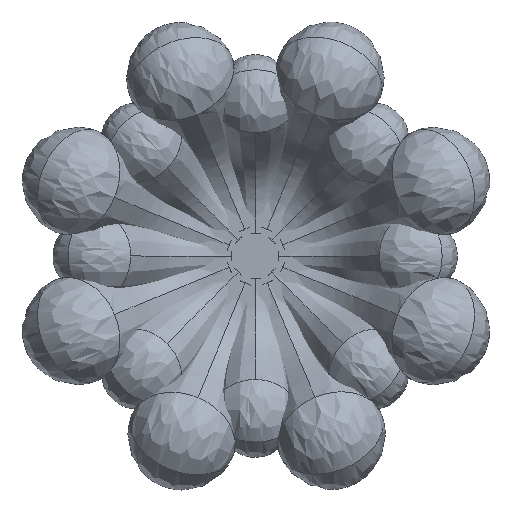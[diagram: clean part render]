
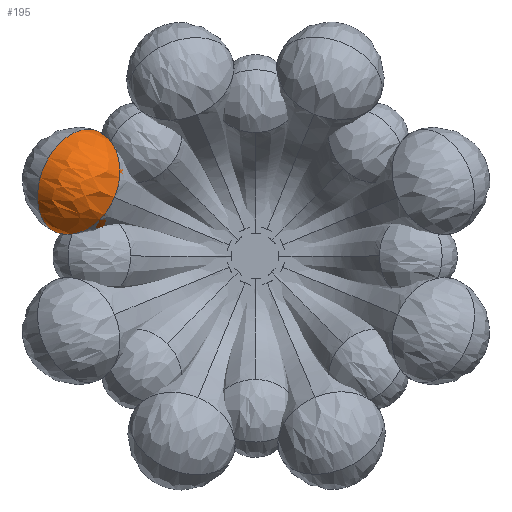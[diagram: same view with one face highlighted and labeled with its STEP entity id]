
A CAD part, top view. The second image highlights one B-rep face of the part: STEP entity #195.
In plain terms, the highlighted free-form (B-spline) face has degree [2, 2] with [5, 5] control points.
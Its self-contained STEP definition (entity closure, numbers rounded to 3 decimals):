
#195=ADVANCED_FACE('',(#295),#2195,.T.);
#295=FACE_OUTER_BOUND('',#395,.T.);
#395=EDGE_LOOP('',(#632,#633));
#632=ORIENTED_EDGE('',*,*,#1783,.F.);
#633=ORIENTED_EDGE('',*,*,#1782,.F.);
#898=PCURVE('',#2194,#1166);
#899=PCURVE('',#2194,#1167);
#900=PCURVE('',#2195,#1168);
#901=PCURVE('',#2195,#1169);
#1166=DEFINITIONAL_REPRESENTATION('',(#1430),#10853);
#1167=DEFINITIONAL_REPRESENTATION('',(#1431),#10853);
#1168=DEFINITIONAL_REPRESENTATION('',(#1432),#10853);
#1169=DEFINITIONAL_REPRESENTATION('',(#1433),#10853);
#1430=B_SPLINE_CURVE_WITH_KNOTS('',1,(#9254,#9255),.UNSPECIFIED.,.F.,.F.,
(2,2),(-142.117,142.117),.UNSPECIFIED.);
#1431=B_SPLINE_CURVE_WITH_KNOTS('',1,(#9261,#9262),.UNSPECIFIED.,.F.,.F.,
(2,2),(-142.117,142.117),.UNSPECIFIED.);
#1432=B_SPLINE_CURVE_WITH_KNOTS('',1,(#9263,#9264),.UNSPECIFIED.,.F.,.F.,
(2,2),(-142.117,142.117),.UNSPECIFIED.);
#1433=B_SPLINE_CURVE_WITH_KNOTS('',1,(#9265,#9266),.UNSPECIFIED.,.F.,.F.,
(2,2),(-142.117,142.117),.UNSPECIFIED.);
#1616=SURFACE_CURVE('',#1952,(#898,#901),.PCURVE_S1.);
#1617=SURFACE_CURVE('',#1953,(#899,#900),.PCURVE_S1.);
#1782=EDGE_CURVE('',#2090,#2091,#1616,.T.);
#1783=EDGE_CURVE('',#2091,#2090,#1617,.T.);
#1952=(
BOUNDED_CURVE()
B_SPLINE_CURVE(2,(#9249,#9250,#9251,#9252,#9253),.UNSPECIFIED.,.F.,.F.)
B_SPLINE_CURVE_WITH_KNOTS((3,2,3),(-142.117,0.,142.117),
 .UNSPECIFIED.)
CURVE()
GEOMETRIC_REPRESENTATION_ITEM()
RATIONAL_B_SPLINE_CURVE((1.,0.707,1.,0.707,1.))
REPRESENTATION_ITEM('')
);
#1953=(
BOUNDED_CURVE()
B_SPLINE_CURVE(2,(#9256,#9257,#9258,#9259,#9260),.UNSPECIFIED.,.F.,.F.)
B_SPLINE_CURVE_WITH_KNOTS((3,2,3),(-142.117,0.,142.117),
 .UNSPECIFIED.)
CURVE()
GEOMETRIC_REPRESENTATION_ITEM()
RATIONAL_B_SPLINE_CURVE((1.,0.707,1.,0.707,1.))
REPRESENTATION_ITEM('')
);
#2090=VERTEX_POINT('',#9247);
#2091=VERTEX_POINT('',#9248);
#2194=(
BOUNDED_SURFACE()
B_SPLINE_SURFACE(2,2,((#9197,#9198,#9199,#9200,#9201),(#9202,#9203,#9204,
#9205,#9206),(#9207,#9208,#9209,#9210,#9211),(#9212,#9213,#9214,#9215,#9216),
(#9217,#9218,#9219,#9220,#9221)),.UNSPECIFIED.,.F.,.F.,.F.)
B_SPLINE_SURFACE_WITH_KNOTS((3,2,3),(3,2,3),(-142.117,0.,142.117),
(0.,142.117,284.235),.UNSPECIFIED.)
GEOMETRIC_REPRESENTATION_ITEM()
RATIONAL_B_SPLINE_SURFACE(((1.,0.707,1.,0.707,1.),
(0.707,0.5,0.707,0.5,0.707),(1.,0.707,
1.,0.707,1.),(0.707,0.5,0.707,0.5,0.707),
(1.,0.707,1.,0.707,1.)))
REPRESENTATION_ITEM('')
SURFACE()
);
#2195=(
BOUNDED_SURFACE()
B_SPLINE_SURFACE(2,2,((#9222,#9223,#9224,#9225,#9226),(#9227,#9228,#9229,
#9230,#9231),(#9232,#9233,#9234,#9235,#9236),(#9237,#9238,#9239,#9240,#9241),
(#9242,#9243,#9244,#9245,#9246)),.UNSPECIFIED.,.F.,.F.,.F.)
B_SPLINE_SURFACE_WITH_KNOTS((3,2,3),(3,2,3),(-142.117,0.,142.117),
(284.235,426.352,568.47),.UNSPECIFIED.)
GEOMETRIC_REPRESENTATION_ITEM()
RATIONAL_B_SPLINE_SURFACE(((1.,0.707,1.,0.707,1.),
(0.707,0.5,0.707,0.5,0.707),(1.,0.707,
1.,0.707,1.),(0.707,0.5,0.707,0.5,0.707),
(1.,0.707,1.,0.707,1.)))
REPRESENTATION_ITEM('')
SURFACE()
);
#9197=CARTESIAN_POINT('',(10553.688,-3463.606,62.275));
#9198=CARTESIAN_POINT('',(10553.688,-3463.606,62.275));
#9199=CARTESIAN_POINT('',(10553.688,-3463.606,62.275));
#9200=CARTESIAN_POINT('',(10553.688,-3463.606,62.275));
#9201=CARTESIAN_POINT('',(10553.688,-3463.606,62.275));
#9202=CARTESIAN_POINT('',(10573.67,-3471.886,37.557));
#9203=CARTESIAN_POINT('',(10550.835,-3462.424,15.927));
#9204=CARTESIAN_POINT('',(10530.852,-3454.144,40.645));
#9205=CARTESIAN_POINT('',(10510.869,-3445.863,65.364));
#9206=CARTESIAN_POINT('',(10533.705,-3455.326,86.994));
#9207=CARTESIAN_POINT('',(10561.097,-3502.23,37.557));
#9208=CARTESIAN_POINT('',(10538.261,-3492.768,15.927));
#9209=CARTESIAN_POINT('',(10518.278,-3484.488,40.645));
#9210=CARTESIAN_POINT('',(10498.296,-3476.208,65.364));
#9211=CARTESIAN_POINT('',(10521.131,-3485.67,86.994));
#9212=CARTESIAN_POINT('',(10548.523,-3532.574,37.557));
#9213=CARTESIAN_POINT('',(10525.688,-3523.112,15.927));
#9214=CARTESIAN_POINT('',(10505.705,-3514.832,40.645));
#9215=CARTESIAN_POINT('',(10485.722,-3506.552,65.364));
#9216=CARTESIAN_POINT('',(10508.558,-3516.014,86.994));
#9217=CARTESIAN_POINT('',(10528.541,-3524.294,62.275));
#9218=CARTESIAN_POINT('',(10528.541,-3524.294,62.275));
#9219=CARTESIAN_POINT('',(10528.541,-3524.294,62.275));
#9220=CARTESIAN_POINT('',(10528.541,-3524.294,62.275));
#9221=CARTESIAN_POINT('',(10528.541,-3524.294,62.275));
#9222=CARTESIAN_POINT('',(10553.688,-3463.606,62.275));
#9223=CARTESIAN_POINT('',(10553.688,-3463.606,62.275));
#9224=CARTESIAN_POINT('',(10553.688,-3463.606,62.275));
#9225=CARTESIAN_POINT('',(10553.688,-3463.606,62.275));
#9226=CARTESIAN_POINT('',(10553.688,-3463.606,62.275));
#9227=CARTESIAN_POINT('',(10533.705,-3455.326,86.994));
#9228=CARTESIAN_POINT('',(10556.54,-3464.788,108.624));
#9229=CARTESIAN_POINT('',(10576.523,-3473.068,83.906));
#9230=CARTESIAN_POINT('',(10596.506,-3481.348,59.187));
#9231=CARTESIAN_POINT('',(10573.67,-3471.886,37.557));
#9232=CARTESIAN_POINT('',(10521.131,-3485.67,86.994));
#9233=CARTESIAN_POINT('',(10543.967,-3495.132,108.624));
#9234=CARTESIAN_POINT('',(10563.95,-3503.412,83.906));
#9235=CARTESIAN_POINT('',(10583.932,-3511.692,59.187));
#9236=CARTESIAN_POINT('',(10561.097,-3502.23,37.557));
#9237=CARTESIAN_POINT('',(10508.558,-3516.014,86.994));
#9238=CARTESIAN_POINT('',(10531.393,-3525.476,108.624));
#9239=CARTESIAN_POINT('',(10551.376,-3533.756,83.906));
#9240=CARTESIAN_POINT('',(10571.359,-3542.037,59.187));
#9241=CARTESIAN_POINT('',(10548.523,-3532.574,37.557));
#9242=CARTESIAN_POINT('',(10528.541,-3524.294,62.275));
#9243=CARTESIAN_POINT('',(10528.541,-3524.294,62.275));
#9244=CARTESIAN_POINT('',(10528.541,-3524.294,62.275));
#9245=CARTESIAN_POINT('',(10528.541,-3524.294,62.275));
#9246=CARTESIAN_POINT('',(10528.541,-3524.294,62.275));
#9247=CARTESIAN_POINT('',(10553.688,-3463.606,62.275));
#9248=CARTESIAN_POINT('',(10528.541,-3524.294,62.275));
#9249=CARTESIAN_POINT('',(10553.688,-3463.606,62.275));
#9250=CARTESIAN_POINT('',(10573.67,-3471.886,37.557));
#9251=CARTESIAN_POINT('',(10561.097,-3502.23,37.557));
#9252=CARTESIAN_POINT('',(10548.523,-3532.574,37.557));
#9253=CARTESIAN_POINT('',(10528.541,-3524.294,62.275));
#9254=CARTESIAN_POINT('',(-142.117,0.));
#9255=CARTESIAN_POINT('',(142.117,0.));
#9256=CARTESIAN_POINT('',(10528.541,-3524.294,62.275));
#9257=CARTESIAN_POINT('',(10508.558,-3516.014,86.994));
#9258=CARTESIAN_POINT('',(10521.131,-3485.67,86.994));
#9259=CARTESIAN_POINT('',(10533.705,-3455.326,86.994));
#9260=CARTESIAN_POINT('',(10553.688,-3463.606,62.275));
#9261=CARTESIAN_POINT('',(142.117,284.235));
#9262=CARTESIAN_POINT('',(-142.117,284.235));
#9263=CARTESIAN_POINT('',(142.117,284.235));
#9264=CARTESIAN_POINT('',(-142.117,284.235));
#9265=CARTESIAN_POINT('',(-142.117,568.47));
#9266=CARTESIAN_POINT('',(142.117,568.47));
#10853=(
GEOMETRIC_REPRESENTATION_CONTEXT(2)
PARAMETRIC_REPRESENTATION_CONTEXT()
REPRESENTATION_CONTEXT('pspace','')
);
